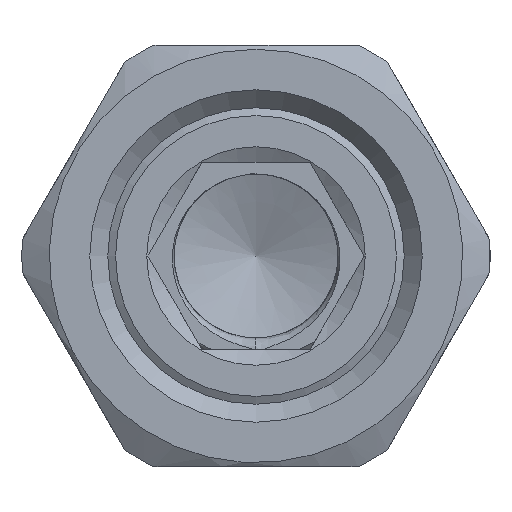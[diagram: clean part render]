
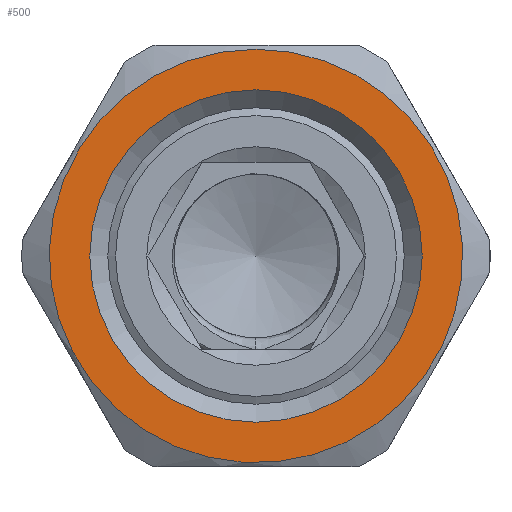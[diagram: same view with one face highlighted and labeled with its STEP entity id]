
A CAD part, left-side view. The second image highlights one B-rep face of the part: STEP entity #500.
In plain terms, the highlighted planar face has unit normal (-1, 0, 0).
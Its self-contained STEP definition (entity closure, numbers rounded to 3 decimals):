
#23 = FACE_BOUND ( 'NONE', #2577, .T. ) ;
#405 = ORIENTED_EDGE ( 'NONE', *, *, #4742, .T. ) ;
#500 = ADVANCED_FACE ( 'NONE', ( #23, #4053 ), #4942, .F. ) ;
#571 = DIRECTION ( 'NONE',  ( 0., 0., -1. ) ) ;
#1098 = CARTESIAN_POINT ( 'NONE',  ( 0., 0., 0. ) ) ;
#1288 = CIRCLE ( 'NONE', #3014, 13.25 ) ;
#1402 = CIRCLE ( 'NONE', #2709, 10.65 ) ;
#1513 = CARTESIAN_POINT ( 'NONE',  ( 0., 0., 13.25 ) ) ;
#1733 = CARTESIAN_POINT ( 'NONE',  ( 0., 10.65, 0. ) ) ;
#2145 = VERTEX_POINT ( 'NONE', #1513 ) ;
#2230 = DIRECTION ( 'NONE',  ( 0., 0., 1. ) ) ;
#2537 = DIRECTION ( 'NONE',  ( 1., 0., 0. ) ) ;
#2577 = EDGE_LOOP ( 'NONE', ( #2583 ) ) ;
#2583 = ORIENTED_EDGE ( 'NONE', *, *, #4179, .F. ) ;
#2709 = AXIS2_PLACEMENT_3D ( 'NONE', #4604, #4155, #2230 ) ;
#3014 = AXIS2_PLACEMENT_3D ( 'NONE', #1098, #5060, #4310 ) ;
#4053 = FACE_OUTER_BOUND ( 'NONE', #5018, .T. ) ;
#4147 = AXIS2_PLACEMENT_3D ( 'NONE', #1733, #2537, #571 ) ;
#4155 = DIRECTION ( 'NONE',  ( -1., 0., 0. ) ) ;
#4179 = EDGE_CURVE ( 'NONE', #4882, #4882, #1402, .T. ) ;
#4310 = DIRECTION ( 'NONE',  ( 0., 0., 1. ) ) ;
#4604 = CARTESIAN_POINT ( 'NONE',  ( 0., 0., 0. ) ) ;
#4742 = EDGE_CURVE ( 'NONE', #2145, #2145, #1288, .T. ) ;
#4882 = VERTEX_POINT ( 'NONE', #5126 ) ;
#4942 = PLANE ( 'NONE',  #4147 ) ;
#5018 = EDGE_LOOP ( 'NONE', ( #405 ) ) ;
#5060 = DIRECTION ( 'NONE',  ( -1., 0., 0. ) ) ;
#5126 = CARTESIAN_POINT ( 'NONE',  ( 0., 0., 10.65 ) ) ;
